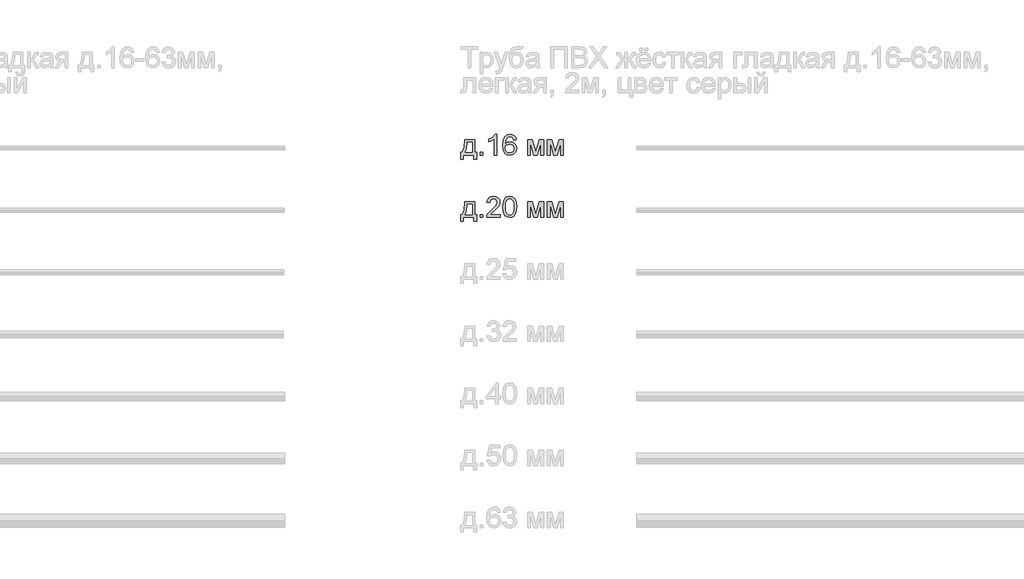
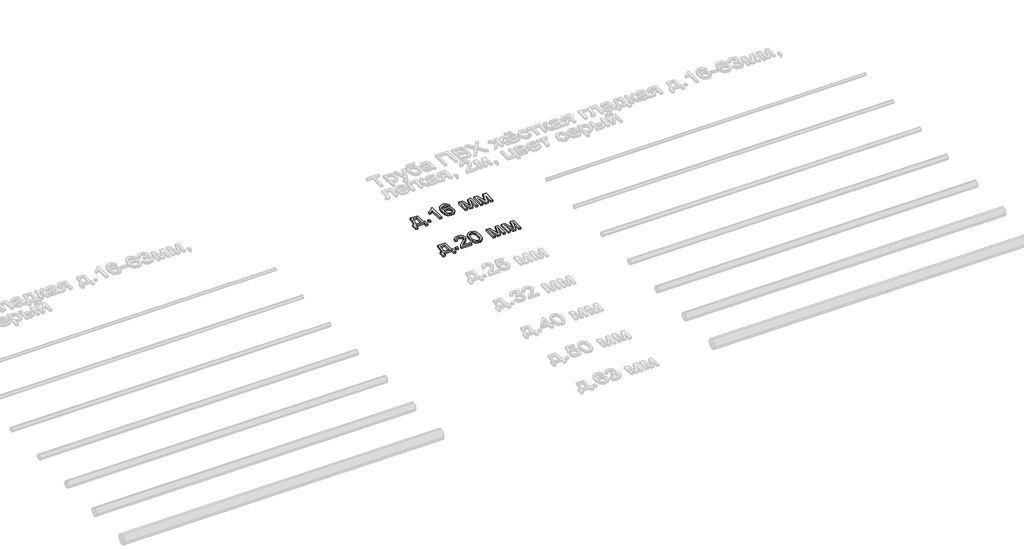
# One storey, part 97 of 98: 2 proxies.
"""IFC4 building model written with IfcOpenShell, lengths in millimetres."""

from ifc_helpers import new_model, si_unit, origin, origin_with_axes, place, context, project, spatial, polyline, outline, extrude, element, save

model = new_model("IFC4")

# Units and contexts
model_context = context("Model", 3, world=origin())
ifc_project = project(units=[si_unit("LENGTHUNIT", "METRE", prefix="MILLI")], contexts=[model_context])

# Site, building, storey
site = spatial("IfcSite", under=ifc_project)
building = spatial("IfcBuilding", under=site)
storey = spatial("IfcBuildingStorey", under=building, Name="Этаж 01", Elevation=0.0)

# Proxies
placement = place(None, origin())
element("IfcBuildingElementProxy", 1, Name="100", ObjectType="100", at=placement, inside=storey, context=model_context, shape_type="SweptSolid", body=[
    extrude(outline(polyline([(14773.0141865, -3563.7647458), (14820.1030819, -3563.7647458), (14820.1030819, -3624.9803098), (14829.520861, -3624.9803098), (14829.520861, -3657.9425366), (14816.9638222, -3657.9425366), (14816.9638222, -3637.5373486), (14765.1660373, -3637.5373486), (14765.1660373, -3657.9425366), (14752.6089985, -3657.9425366), (14752.6089985, -3624.9803098), (14760.4571478, -3624.9803098), (14770.1569697, -3601.031192), (14773.0141865, -3563.7647458)]), holes=[polyline([(14784.0015955, -3576.3217846), (14781.0585395, -3604.9307411), (14774.5838164, -3624.9803098), (14807.5460431, -3624.9803098), (14807.5460431, -3576.3217846), (14784.0015955, -3576.3217846)])]), origin_with_axes(), (0.0, 0.0, 1.0), 10.0),
    extrude(outline(polyline([(14846.7867893, -3637.5373486), (14846.7867893, -3624.9803098), (14859.3438281, -3624.9803098), (14859.3438281, -3637.5373486), (14846.7867893, -3637.5373486)])), origin_with_axes(), (0.0, 0.0, 1.0), 10.0),
    extrude(outline(polyline([(14926.8379114, -3637.5373486), (14914.2808727, -3637.5373486), (14914.2808727, -3559.25206), (14902.3860215, -3567.7256087), (14889.1667951, -3574.0654417), (14889.1667951, -3562.195116), (14907.5731576, -3550.4474176), (14918.7445076, -3537.0810385), (14926.8379114, -3537.0810385), (14926.8379114, -3637.5373486)])), origin_with_axes(), (0.0, 0.0, 1.0), 10.0),
    extrude(outline(polyline([(15021.0157022, -3563.7647458), (15008.4586634, -3565.3343757), (15003.700723, -3554.8620016), (14991.1191587, -3549.6380772), (14979.7883933, -3552.6792351), (14971.2167428, -3564.0958396), (14967.6482874, -3586.4753277), (14978.7215355, -3576.4566747), (14992.4435339, -3573.1825249), (15004.0440795, -3575.4204737), (15013.7806896, -3582.1343201), (15020.3841715, -3592.3920964), (15022.5853321, -3605.2618349), (15018.4405282, -3622.5890769), (15007.0361864, -3634.85181), (14990.5795985, -3639.1069785), (14976.3333682, -3636.2865498), (14964.9872743, -3627.8252639), (14957.5652551, -3612.8892549), (14955.0912487, -3590.644657), (14957.8381009, -3565.6348127), (14966.0786576, -3548.5344312), (14977.3297153, -3539.9443867), (14991.9039737, -3537.0810385), (15002.9220394, -3538.8530034), (15011.7450759, -3544.1688982), (15017.9254935, -3552.61179), (15021.0157022, -3563.7647458)]), holes=[polyline([(14967.6482874, -3605.0656312), (14970.5545552, -3615.9426755), (14978.2800771, -3623.8398757), (14989.5985798, -3626.5499397), (14997.8851218, -3625.1458567), (15004.3996988, -3620.9336079), (15008.6211447, -3614.311732), (15010.0282933, -3605.6787678), (15008.6395388, -3597.3922259), (15004.4732752, -3591.0738526), (14997.8483336, -3587.0731359), (14989.083545, -3585.7395637), (14973.8900186, -3591.0738526), (14969.2087202, -3597.2389417), (14967.6482874, -3605.0656312)])]), origin_with_axes(), (0.0, 0.0, 1.0), 10.0),
    extrude(outline(polyline([(15075.9527468, -3563.7647458), (15097.5596827, -3563.7647458), (15114.2124743, -3622.8220688), (15132.1651157, -3563.7647458), (15152.8646093, -3563.7647458), (15152.8646093, -3637.5373486), (15140.3075705, -3637.5373486), (15140.3075705, -3578.1366691), (15122.2568273, -3637.5373486), (15105.7757139, -3637.5373486), (15088.5097856, -3575.291715), (15088.5097856, -3637.5373486), (15075.9527468, -3637.5373486), (15075.9527468, -3563.7647458)])), origin_with_axes(), (0.0, 0.0, 1.0), 10.0),
    extrude(outline(polyline([(15171.7001674, -3563.7647458), (15193.3071033, -3563.7647458), (15209.9598949, -3622.8220688), (15227.9125363, -3563.7647458), (15248.6120299, -3563.7647458), (15248.6120299, -3637.5373486), (15236.0549911, -3637.5373486), (15236.0549911, -3578.1366691), (15218.0042479, -3637.5373486), (15201.5231345, -3637.5373486), (15184.2572062, -3575.291715), (15184.2572062, -3637.5373486), (15171.7001674, -3637.5373486), (15171.7001674, -3563.7647458)])), origin_with_axes(), (0.0, 0.0, 1.0), 10.0),
])
element("IfcBuildingElementProxy", 2, Name="100", ObjectType="100", at=placement, inside=storey, context=model_context, shape_type="SweptSolid", body=[
    extrude(outline(polyline([(14773.0141865, -3863.7647458), (14820.1030819, -3863.7647458), (14820.1030819, -3924.9803098), (14829.520861, -3924.9803098), (14829.520861, -3957.9425366), (14816.9638222, -3957.9425366), (14816.9638222, -3937.5373486), (14765.1660373, -3937.5373486), (14765.1660373, -3957.9425366), (14752.6089985, -3957.9425366), (14752.6089985, -3924.9803098), (14760.4571478, -3924.9803098), (14770.1569697, -3901.031192), (14773.0141865, -3863.7647458)]), holes=[polyline([(14784.0015955, -3876.3217846), (14781.0585395, -3904.9307411), (14774.5838164, -3924.9803098), (14807.5460431, -3924.9803098), (14807.5460431, -3876.3217846), (14784.0015955, -3876.3217846)])]), origin_with_axes(), (0.0, 0.0, 1.0), 10.0),
    extrude(outline(polyline([(14846.7867893, -3937.5373486), (14846.7867893, -3924.9803098), (14859.3438281, -3924.9803098), (14859.3438281, -3937.5373486), (14846.7867893, -3937.5373486)])), origin_with_axes(), (0.0, 0.0, 1.0), 10.0),
    extrude(outline(polyline([(14944.1038398, -3924.9803098), (14944.1038398, -3937.5373486), (14878.1793862, -3937.5373486), (14879.5282869, -3928.879859), (14887.1557069, -3915.550268), (14902.8765308, -3900.9944038), (14924.5570431, -3880.074181), (14929.9771711, -3865.8494105), (14924.8636114, -3854.334704), (14911.509495, -3849.6380772), (14897.5912928, -3854.2243394), (14892.3060548, -3866.9040055), (14879.7490161, -3865.3343757), (14882.7932396, -3853.1881385), (14889.3752616, -3844.316051), (14899.1517256, -3838.8897916), (14911.7792751, -3837.0810385), (14924.4987951, -3839.0921267), (14934.256865, -3845.1253914), (14940.4648737, -3854.1385003), (14942.5342099, -3865.089121), (14940.3023925, -3876.9962349), (14932.8834389, -3889.308019), (14914.8940093, -3906.5126337), (14900.4485097, -3918.5914259), (14894.7831269, -3924.9803098), (14944.1038398, -3924.9803098)])), origin_with_axes(), (0.0, 0.0, 1.0), 10.0),
    extrude(outline(polyline([(14956.6608785, -3888.1185339), (14960.3519612, -3859.2152718), (14971.3148447, -3842.5502175), (14989.6231053, -3837.0810385), (15004.2893342, -3840.3184), (15014.4183518, -3849.65034), (15020.3044637, -3864.5127726), (15022.5853321, -3888.1185339), (15018.9310376, -3916.8991687), (15008.0049423, -3933.6010113), (14999.7735827, -3937.7304867), (14989.6231053, -3939.1069785), (14976.5755572, -3936.7157455), (14966.6672688, -3929.5420466), (14959.1624761, -3912.5520298), (14956.6608785, -3888.1185339)]), holes=[polyline([(14969.2179173, -3888.0940085), (14970.6894453, -3907.8462059), (14975.1040292, -3919.2781389), (14981.6768542, -3924.7319895), (14989.6231053, -3926.5499397), (14997.5693564, -3924.7258581), (15004.1421814, -3919.2536135), (15008.5567653, -3907.8155491), (15010.0282933, -3888.0940085), (15008.6058162, -3868.7863351), (15004.3383851, -3857.2654973), (14997.7778228, -3851.5449322), (14989.4759525, -3849.6380772), (14981.6155405, -3851.3180717), (14975.3002329, -3856.358055), (14970.7384962, -3868.5962627), (14969.2179173, -3888.0940085)])]), origin_with_axes(), (0.0, 0.0, 1.0), 10.0),
    extrude(outline(polyline([(15075.9527468, -3863.7647458), (15097.5596827, -3863.7647458), (15114.2124743, -3922.8220688), (15132.1651157, -3863.7647458), (15152.8646093, -3863.7647458), (15152.8646093, -3937.5373486), (15140.3075705, -3937.5373486), (15140.3075705, -3878.1366691), (15122.2568273, -3937.5373486), (15105.7757139, -3937.5373486), (15088.5097856, -3875.291715), (15088.5097856, -3937.5373486), (15075.9527468, -3937.5373486), (15075.9527468, -3863.7647458)])), origin_with_axes(), (0.0, 0.0, 1.0), 10.0),
    extrude(outline(polyline([(15171.7001674, -3863.7647458), (15193.3071033, -3863.7647458), (15209.9598949, -3922.8220688), (15227.9125363, -3863.7647458), (15248.6120299, -3863.7647458), (15248.6120299, -3937.5373486), (15236.0549911, -3937.5373486), (15236.0549911, -3878.1366691), (15218.0042479, -3937.5373486), (15201.5231345, -3937.5373486), (15184.2572062, -3875.291715), (15184.2572062, -3937.5373486), (15171.7001674, -3937.5373486), (15171.7001674, -3863.7647458)])), origin_with_axes(), (0.0, 0.0, 1.0), 10.0),
])

save(model, "model.ifc")
